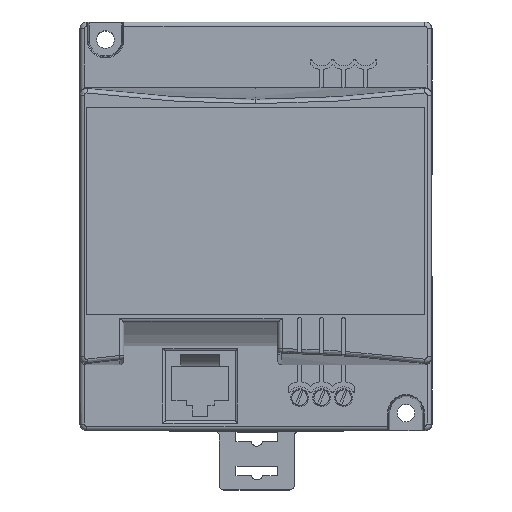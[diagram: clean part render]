
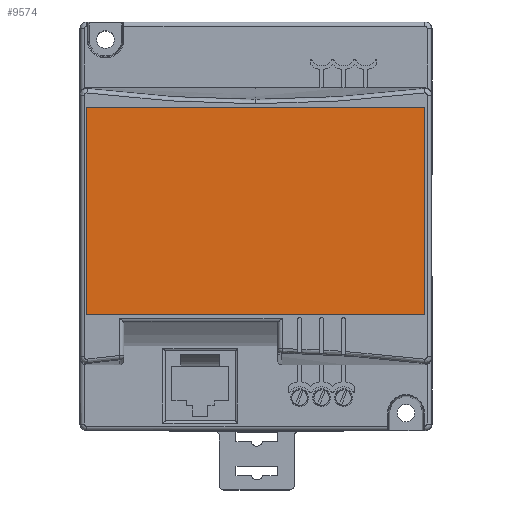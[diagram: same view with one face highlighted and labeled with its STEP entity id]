
A CAD part, top view. The second image highlights one B-rep face of the part: STEP entity #9574.
In plain terms, the highlighted planar face has unit normal (0, 0, 1).
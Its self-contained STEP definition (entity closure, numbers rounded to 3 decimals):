
#2221 = VERTEX_POINT ( 'NONE', #28430 ) ;
#2223 = VERTEX_POINT ( 'NONE', #28432 ) ;
#2627 = VERTEX_POINT ( 'NONE', #28446 ) ;
#2628 = VERTEX_POINT ( 'NONE', #28447 ) ;
#8050 = ORIENTED_EDGE ( 'NONE', *, *, #9073, .F. ) ;
#8052 = ORIENTED_EDGE ( 'NONE', *, *, #9075, .T. ) ;
#8053 = ORIENTED_EDGE ( 'NONE', *, *, #9071, .T. ) ;
#8054 = ORIENTED_EDGE ( 'NONE', *, *, #9077, .T. ) ;
#9071 = EDGE_CURVE ( 'NONE', #2628, #2223, #26762, .T. ) ;
#9073 = EDGE_CURVE ( 'NONE', #2628, #2627, #26763, .T. ) ;
#9075 = EDGE_CURVE ( 'NONE', #2223, #2221, #26764, .T. ) ;
#9077 = EDGE_CURVE ( 'NONE', #2221, #2627, #26765, .T. ) ;
#9574 = ADVANCED_FACE ( 'NONE', ( #27131 ), #32186, .F. ) ;
#23608 = EDGE_LOOP ( 'NONE', ( #8050, #8053, #8052, #8054 ) ) ;
#26762 = LINE ( 'NONE', #31165, #30244 ) ;
#26763 = LINE ( 'NONE', #31167, #30246 ) ;
#26764 = LINE ( 'NONE', #31169, #30247 ) ;
#26765 = LINE ( 'NONE', #31171, #30249 ) ;
#27131 = FACE_OUTER_BOUND ( 'NONE', #23608, .T. ) ;
#28430 = CARTESIAN_POINT ( 'NONE',  ( -58.324, -396.029, 195.919 ) ) ;
#28432 = CARTESIAN_POINT ( 'NONE',  ( 18.676, -396.029, 195.919 ) ) ;
#28446 = CARTESIAN_POINT ( 'NONE',  ( -58.324, -443.242, 195.919 ) ) ;
#28447 = CARTESIAN_POINT ( 'NONE',  ( 18.676, -443.242, 195.919 ) ) ;
#30244 = VECTOR ( 'NONE', #31166, 1000. ) ;
#30246 = VECTOR ( 'NONE', #31168, 1000. ) ;
#30247 = VECTOR ( 'NONE', #31170, 1000. ) ;
#30249 = VECTOR ( 'NONE', #31172, 1000. ) ;
#30504 = AXIS2_PLACEMENT_3D ( 'NONE', #32187, #32188, #32189 ) ;
#31165 = CARTESIAN_POINT ( 'NONE',  ( 18.676, -450.029, 195.919 ) ) ;
#31166 = DIRECTION ( 'NONE',  ( 0., 1., 0. ) ) ;
#31167 = CARTESIAN_POINT ( 'NONE',  ( -58.324, -443.242, 195.919 ) ) ;
#31168 = DIRECTION ( 'NONE',  ( -1., 0., 0. ) ) ;
#31169 = CARTESIAN_POINT ( 'NONE',  ( -58.324, -396.029, 195.919 ) ) ;
#31170 = DIRECTION ( 'NONE',  ( -1., 0., 0. ) ) ;
#31171 = CARTESIAN_POINT ( 'NONE',  ( -58.324, -396.029, 195.919 ) ) ;
#31172 = DIRECTION ( 'NONE',  ( 0., -1., 0. ) ) ;
#32186 = PLANE ( 'NONE',  #30504 ) ;
#32187 = CARTESIAN_POINT ( 'NONE',  ( 18.676, -396.029, 195.919 ) ) ;
#32188 = DIRECTION ( 'NONE',  ( 0., 0., -1. ) ) ;
#32189 = DIRECTION ( 'NONE',  ( -1., 0., 0. ) ) ;
